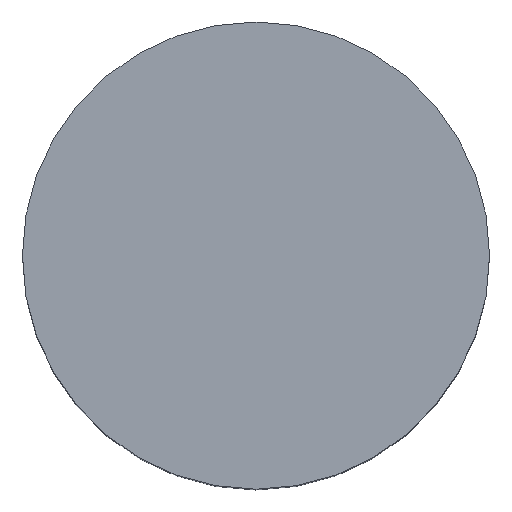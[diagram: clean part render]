
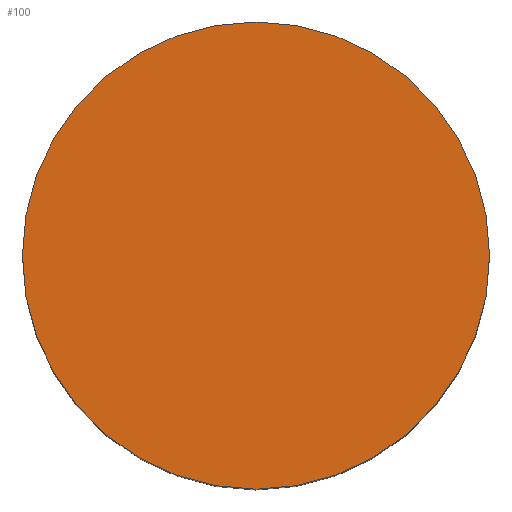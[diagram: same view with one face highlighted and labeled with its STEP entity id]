
A CAD part, top view. The second image highlights one B-rep face of the part: STEP entity #100.
In plain terms, the highlighted planar face has unit normal (0, 0, 1).
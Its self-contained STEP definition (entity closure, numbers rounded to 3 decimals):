
#50=PLANE('',#898);
#100=ADVANCED_FACE('',(#138),#50,.T.);
#138=FACE_OUTER_BOUND('',#179,.F.);
#179=EDGE_LOOP('',(#235,#236));
#235=ORIENTED_EDGE('',*,*,#706,.F.);
#236=ORIENTED_EDGE('',*,*,#702,.F.);
#702=EDGE_CURVE('',#840,#839,#776,.T.);
#706=EDGE_CURVE('',#839,#840,#778,.T.);
#776=CIRCLE('',#870,7.5);
#778=CIRCLE('',#872,7.5);
#839=VERTEX_POINT('',#1179);
#840=VERTEX_POINT('',#1180);
#870=AXIS2_PLACEMENT_3D('',#1192,#964,#965);
#872=AXIS2_PLACEMENT_3D('',#1196,#970,#971);
#898=AXIS2_PLACEMENT_3D('',#1236,#1036,#1037);
#964=DIRECTION('',(0.,0.,1.));
#965=DIRECTION('',(1.,0.,0.));
#970=DIRECTION('',(0.,0.,1.));
#971=DIRECTION('',(-1.,0.,0.));
#1036=DIRECTION('',(0.,0.,1.));
#1037=DIRECTION('',(0.,1.,0.));
#1179=CARTESIAN_POINT('',(-7.5,39.25,-107.5));
#1180=CARTESIAN_POINT('',(7.5,39.25,-107.5));
#1192=CARTESIAN_POINT('',(0.,39.25,-107.5));
#1196=CARTESIAN_POINT('',(0.,39.25,-107.5));
#1236=CARTESIAN_POINT('',(7.65,31.6,-107.5));
